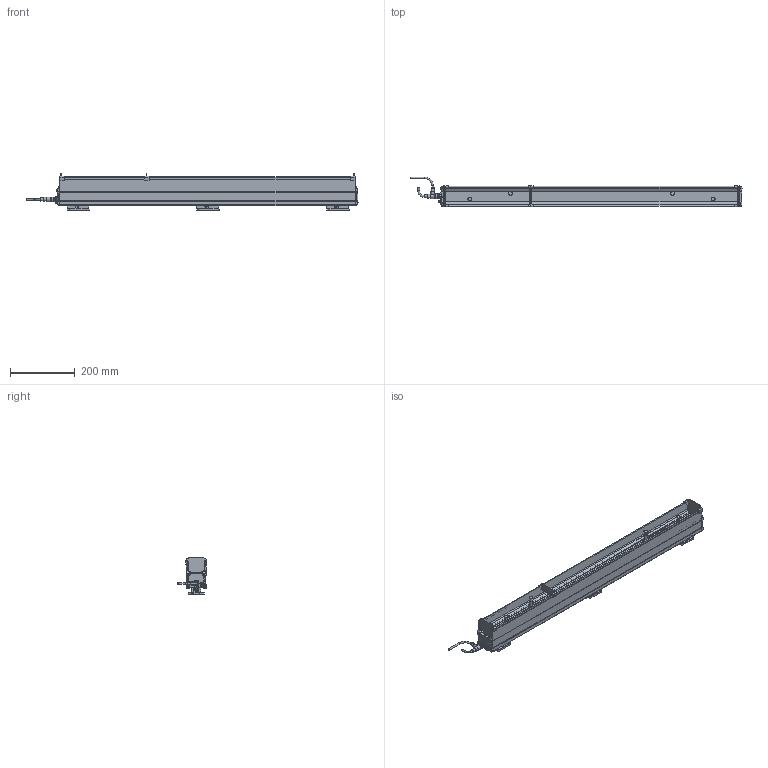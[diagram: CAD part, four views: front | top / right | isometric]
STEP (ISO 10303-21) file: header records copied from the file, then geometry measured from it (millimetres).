
FILE_DESCRIPTION(/* description */ (''),/* implementation_level */ '2;1');
FILE_NAME(/* name */ 'THUNDERION2_3D_0750-0945',/* time_stamp */ '2017-09-28T10:53:17+02:00',/* author */ (''),/* organization */ (''),/* preprocessor_version */ 'ST-DEVELOPER v15.7',/* originating_system */ 'HiCAD 2015 2002.1 Build 408',/* authorisation */ '');
FILE_SCHEMA (('AUTOMOTIVE_DESIGN { 1 0 10303 214 1 1 1 1 }'));
Products named in the file (91): Root; -_ThunderION 0750/0945; -_Side profile; -_Connector straight; EXTRUDED SOLID_0; -_Cord; REVOLVED SOLID_1; REVOLVED SOLID_3; DIN 13-M12x1,5; -_Connector angled; REVOLVED SOLID_2; 4532000100_Mounting bracket bars; -_Side piece; -_Slide piece; -_Bracket small; DIN 13-M3; DIN 76-M3; -_Cable End; light pipe M; light pipe L; -_Cap CE; -_Stud M4; -_Connector M12 male 5 pole_1; -_Contacts; ABSR_1_2_1_1_Inner part; ABSR_1_2_1_2_Inner part; bus; Pg 9; -_Ring tongue terminal; 9230000020_Nut M4; GEWINDE; 9240100020_Spring washer M4; ISO 7051-ST3.5x9.5-C-H_Tapping screws_0; -_Fill; -_Dead end; -_Cap DE; -_Emitter; -_Bar; -_End Plate; -_Support Side Profile
Assembly tree (90 placements, depth 6):
  Root
    -_ThunderION 0750/0945
      -_Side profile
      -_Side profile
      -_Connector straight
        EXTRUDED SOLID_0
        -_Cord
        REVOLVED SOLID_1
        REVOLVED SOLID_3
          DIN 13-M12x1,5
      -_Connector angled
        REVOLVED SOLID_1
        EXTRUDED SOLID_0
        -_Cord
        REVOLVED SOLID_2
        REVOLVED SOLID_3
          DIN 13-M12x1,5
      4532000100_Mounting bracket bars
        -_Side piece
        -_Side piece
        -_Slide piece
        -_Bracket small
          DIN 13-M3
          DIN 13-M3
          DIN 76-M3
          DIN 76-M3
      4532000100_Mounting bracket bars
        -_Side piece
        -_Side piece
        -_Slide piece
        -_Bracket small
          DIN 13-M3
          DIN 13-M3
          DIN 76-M3
          DIN 76-M3
      4532000100_Mounting bracket bars
        -_Side piece
        -_Side piece
        -_Slide piece
        -_Bracket small
          DIN 13-M3
          DIN 13-M3
          DIN 76-M3
          DIN 76-M3
      -_Cable End
        light pipe M
        light pipe L
        light pipe L
        -_Cap CE
        -_Stud M4
        -_Connector M12 male 5 pole_1
          -_Contacts
          ABSR_1_2_1_1_Inner part
          ABSR_1_2_1_2_Inner part
          bus
            Pg 9
        -_Ring tongue terminal
        9230000020_Nut M4
          GEWINDE
        9230000020_Nut M4
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Bounding box: 1023.34 x 92.25 x 113 mm (x, y, z)
Volume: 2997743.2 mm3; surface area: 740232.3 mm2
Topology: 85 solids, 94 shells, 3534 faces, 9147 edges, 5635 vertices
Faces by surface type: plane 1572, cylinder 1294, bspline 216, cone 161, torus 155, sphere 136
Full cylindrical faces by diameter (mm): 0.8 x10, 1 x10, 2.387 x12, 2.5 x1, 2.64 x16, 3 x24, 3.141 x2, 3.5 x8, 4 x26, 4.2 x3, 4.4 x1, 5 x4, 5.5 x15, 7.3 x8, 8 x2, 8.4 x2, 9 x6, 9.6 x1, 10 x2, 10.16 x1, 10.5 x2, 11 x4, 12 x5, 12.8 x1, 13.8 x4, 13.86 x1, 14.5 x3, 15.199 x1, 15.2 x1
Entity records: 223316 total; most frequent: CARTESIAN_POINT 71005, DIRECTION 17385, PRESENTATION_STYLE_ASSIGNMENT 17180, OVER_RIDING_STYLED_ITEM 17099, DRAUGHTING_PRE_DEFINED_CURVE_FONT 17072, CURVE_STYLE 17072, ORIENTED_EDGE 17072, EDGE_CURVE 8536
